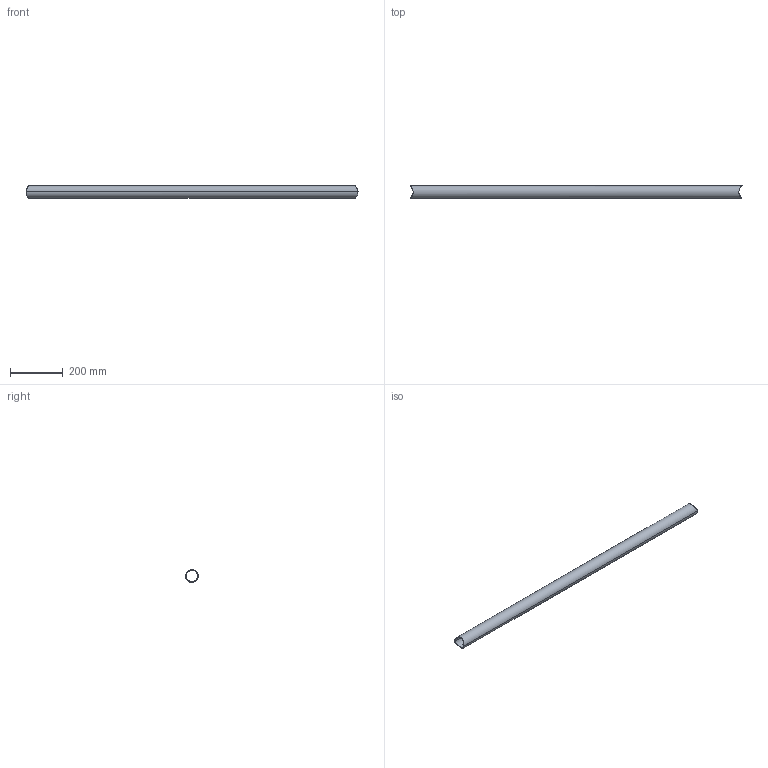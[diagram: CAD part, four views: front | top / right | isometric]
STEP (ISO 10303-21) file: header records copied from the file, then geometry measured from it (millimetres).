
FILE_DESCRIPTION (( 'STEP AP214' ), '1' );
FILE_NAME ('CCJ029-REP.334 - LISSE PORTILLON A1-A2.STEP', '2025-11-04T12:24:51', ( '' ), ( '' ), 'SwSTEP 2.0', 'SolidWorks 2021', '' );
FILE_SCHEMA (( 'AUTOMOTIVE_DESIGN' ));
Length unit declared in the file: millimetre
Products named in the file (1): CCJ029-REP.334 - LISSE PORTILLON A1-A2
Bounding box: 1263.9 x 48.3 x 48.3 mm (x, y, z)
Volume: 449145.9 mm3; surface area: 360386 mm2
Topology: 1 solids, 1 shells, 10 faces, 24 edges, 16 vertices
Faces by surface type: cylinder 10
Entity records: 1078 total; most frequent: CARTESIAN_POINT 827, ORIENTED_EDGE 48, DIRECTION 30, EDGE_CURVE 24, EDGE_LOOP 16, VERTEX_POINT 16, B_SPLINE_CURVE_WITH_KNOTS 16, AXIS2_PLACEMENT_3D 11
